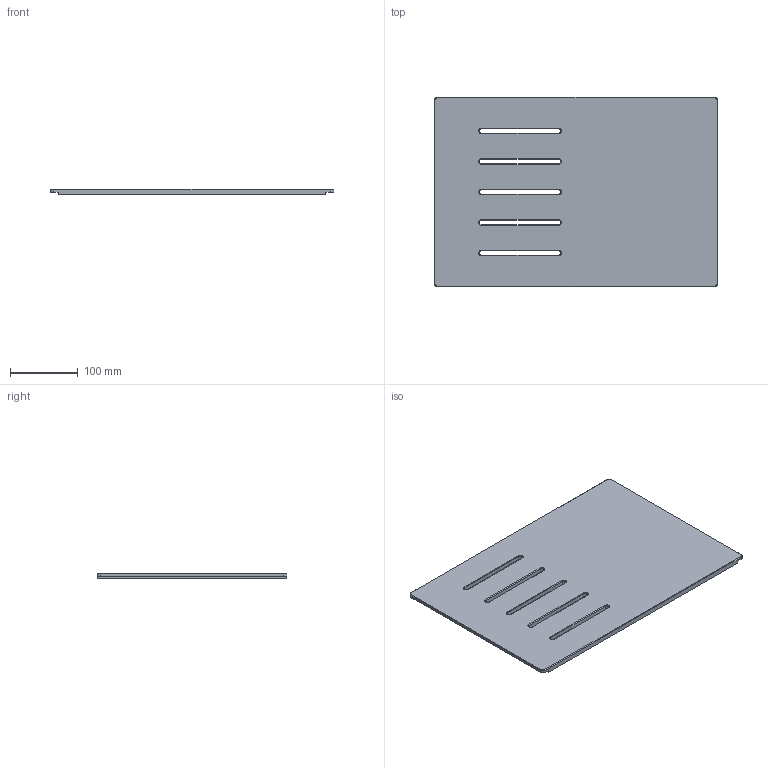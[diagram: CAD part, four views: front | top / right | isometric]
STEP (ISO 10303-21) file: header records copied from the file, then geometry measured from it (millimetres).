
FILE_DESCRIPTION(/* description */ (''),/* implementation_level */ '2;1');
FILE_NAME(/* name */ 'CB28QU.stp',/* time_stamp */ '2021-05-08T08:45:59+02:00',/* author */ (''),/* organization */ (''),/* preprocessor_version */ 'ST-DEVELOPER v16',/* originating_system */ 'SIEMENS PLM Software NX 11.0',/* authorisation */ '');
FILE_SCHEMA (('AUTOMOTIVE_DESIGN { 1 0 10303 214 3 1 1 1 }'));
Length unit declared in the file: millimetre
Products named in the file (1): mart2B9CF3DDs00b
Bounding box: 418 x 280 x 8 mm (x, y, z)
Volume: 879925.9 mm3; surface area: 244935.6 mm2
Topology: 1 solids, 1 shells, 97 faces, 232 edges, 137 vertices
Faces by surface type: plane 44, cone 34, cylinder 19
Entity records: 2811 total; most frequent: DIRECTION 505, CARTESIAN_POINT 467, ORIENTED_EDGE 464, EDGE_CURVE 232, AXIS2_PLACEMENT_3D 175, LINE 155, VECTOR 155, VERTEX_POINT 137
